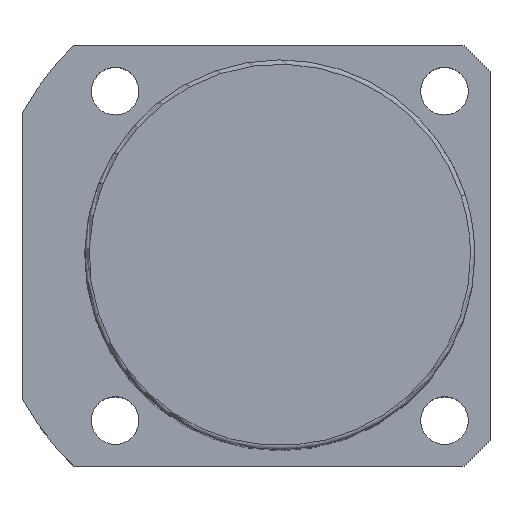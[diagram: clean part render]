
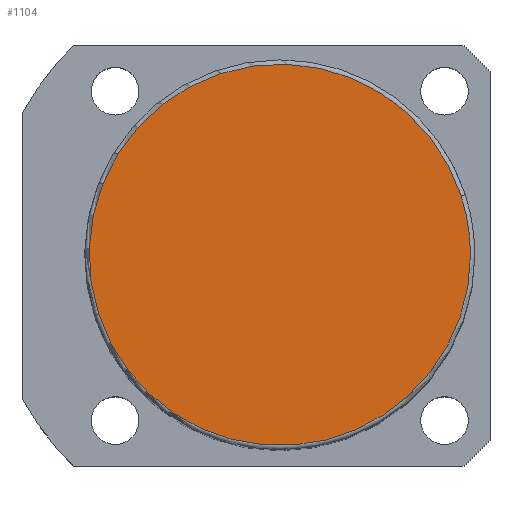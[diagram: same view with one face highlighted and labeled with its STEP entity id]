
A CAD part, top view. The second image highlights one B-rep face of the part: STEP entity #1104.
In plain terms, the highlighted planar face has unit normal (0, 0, 1).
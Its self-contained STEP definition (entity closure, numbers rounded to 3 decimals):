
#1070=CARTESIAN_POINT('',(44.0,0.0,151.5));
#1071=VERTEX_POINT('',#1070);
#1072=CARTESIAN_POINT('',(41.846,13.597,151.5));
#1073=VERTEX_POINT('',#1072);
#1074=CARTESIAN_POINT('',(0.0,0.0,151.5));
#1075=DIRECTION('',(0.0,0.0,1.0));
#1076=DIRECTION('',(1.0,0.0,0.0));
#1077=AXIS2_PLACEMENT_3D('',#1074,#1075,#1076);
#1078=CIRCLE('',#1077,44.0);
#1079=EDGE_CURVE('no 1684',#1071,#1073,#1078,.T.);
#1080=ORIENTED_EDGE('',*,*,#1079,.T.);
#1081=CARTESIAN_POINT('',(-41.846,-13.597,151.5));
#1082=VERTEX_POINT('',#1081);
#1083=CARTESIAN_POINT('',(0.0,0.0,151.5));
#1084=DIRECTION('',(0.0,0.0,1.0));
#1085=DIRECTION('',(1.0,0.0,0.0));
#1086=AXIS2_PLACEMENT_3D('',#1083,#1084,#1085);
#1087=CIRCLE('',#1086,44.0);
#1088=EDGE_CURVE('no 1690',#1073,#1082,#1087,.T.);
#1089=ORIENTED_EDGE('',*,*,#1088,.T.);
#1090=CARTESIAN_POINT('',(0.0,0.0,151.5));
#1091=DIRECTION('',(0.0,0.0,1.0));
#1092=DIRECTION('',(1.0,0.0,0.0));
#1093=AXIS2_PLACEMENT_3D('',#1090,#1091,#1092);
#1094=CIRCLE('',#1093,44.0);
#1095=EDGE_CURVE('no 1694',#1082,#1071,#1094,.T.);
#1096=ORIENTED_EDGE('',*,*,#1095,.T.);
#1097=EDGE_LOOP('',(#1080,#1089,#1096));
#1098=FACE_OUTER_BOUND('',#1097,.T.);
#1099=CARTESIAN_POINT('',(0.0,0.0,151.5));
#1100=DIRECTION('',(0.0,0.0,1.0));
#1101=DIRECTION('',(1.0,0.0,0.0));
#1102=AXIS2_PLACEMENT_3D('',#1099,#1100,#1101);
#1103=PLANE('',#1102);
#1104=ADVANCED_FACE('no 1675',(#1098),#1103,.T.);
